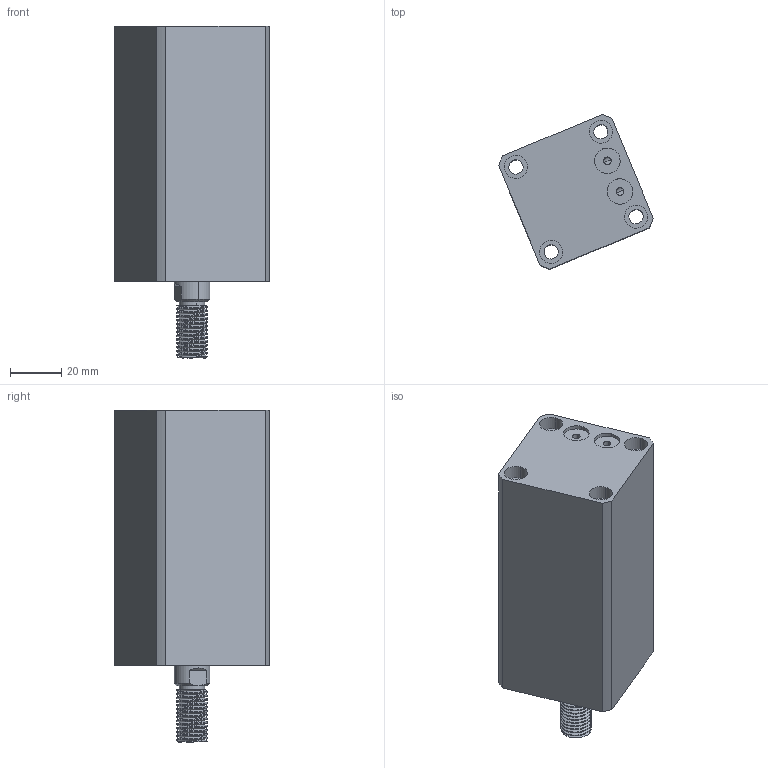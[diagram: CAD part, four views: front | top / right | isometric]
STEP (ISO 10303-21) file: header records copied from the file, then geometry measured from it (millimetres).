
FILE_DESCRIPTION (( 'STEP AP214' ), '1' );
FILE_NAME ('chtb-sdmb25x55w_asm.STEP', '2018-05-24T02:32:50', ( 'Windows' ), ( 'Microsoft' ), 'SwSTEP 2.0', 'SolidWorks 2015', '' );
FILE_SCHEMA (( 'AUTOMOTIVE_DESIGN' ));
Length unit declared in the file: millimetre
Products named in the file (4): CHTB-SDMB25X55WHSG; CHTB-SDMB25X55NBT; CHTB-25QG; chtb-sdmb25x55w_asm
Assembly tree (3 placements, depth 2):
  chtb-sdmb25x55w_asm
    CHTB-25QG
    CHTB-SDMB25X55NBT
    CHTB-SDMB25X55WHSG
Bounding box: 60.55 x 60.55 x 130 mm (x, y, z)
Volume: 200117.9 mm3; surface area: 51725.2 mm2
Topology: 3 solids, 3 shells, 176 faces, 476 edges, 323 vertices
Faces by surface type: cylinder 118, plane 37, bspline 12, cone 9
Entity records: 10721 total; most frequent: CARTESIAN_POINT 6406, ORIENTED_EDGE 944, DIRECTION 765, EDGE_CURVE 472, VERTEX_POINT 323, AXIS2_PLACEMENT_3D 310, EDGE_LOOP 215, FACE_OUTER_BOUND 176
